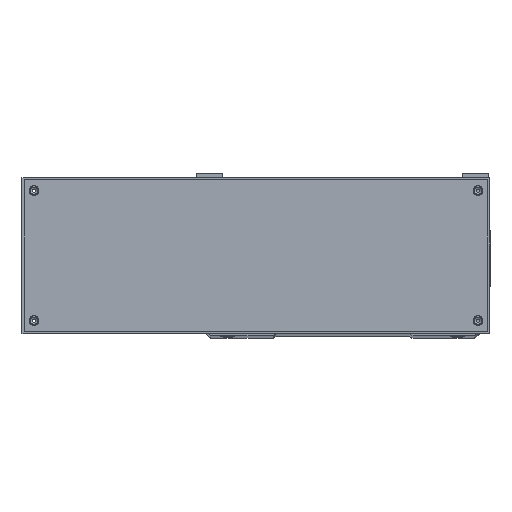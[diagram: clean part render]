
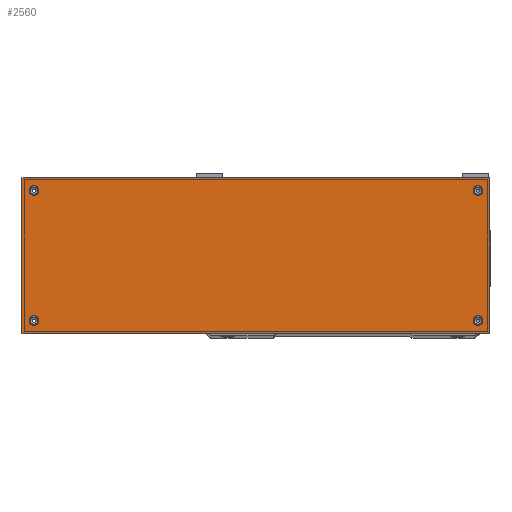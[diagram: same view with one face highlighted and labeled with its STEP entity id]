
A CAD part, top view. The second image highlights one B-rep face of the part: STEP entity #2560.
In plain terms, the highlighted planar face has unit normal (0, 0, 1).
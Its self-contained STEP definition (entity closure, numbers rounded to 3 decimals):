
#856=FACE_BOUND('',#4463,.T.);
#857=FACE_BOUND('',#4464,.T.);
#858=FACE_BOUND('',#4465,.T.);
#859=FACE_BOUND('',#4466,.T.);
#860=FACE_BOUND('',#4467,.T.);
#1878=CIRCLE('',#15849,2.25);
#1880=CIRCLE('',#15852,2.25);
#1882=CIRCLE('',#15855,2.25);
#1884=CIRCLE('',#15858,2.25);
#2560=ADVANCED_FACE('',(#856,#857,#858,#859,#860),#3297,.F.);
#3297=PLANE('',#15864);
#4463=EDGE_LOOP('',(#6827));
#4464=EDGE_LOOP('',(#6828));
#4465=EDGE_LOOP('',(#6829));
#4466=EDGE_LOOP('',(#6830));
#4467=EDGE_LOOP('',(#6831,#6832,#6833,#6834));
#6827=ORIENTED_EDGE('',*,*,#11982,.F.);
#6828=ORIENTED_EDGE('',*,*,#11984,.F.);
#6829=ORIENTED_EDGE('',*,*,#11986,.F.);
#6830=ORIENTED_EDGE('',*,*,#11988,.F.);
#6831=ORIENTED_EDGE('',*,*,#11750,.F.);
#6832=ORIENTED_EDGE('',*,*,#11998,.F.);
#6833=ORIENTED_EDGE('',*,*,#11989,.F.);
#6834=ORIENTED_EDGE('',*,*,#11769,.F.);
#10102=VERTEX_POINT('',#23247);
#10103=VERTEX_POINT('',#23249);
#10114=VERTEX_POINT('',#23282);
#10260=VERTEX_POINT('',#24163);
#10262=VERTEX_POINT('',#24168);
#10264=VERTEX_POINT('',#24173);
#10266=VERTEX_POINT('',#24178);
#10267=VERTEX_POINT('',#24181);
#11750=EDGE_CURVE('',#10102,#10103,#13499,.T.);
#11769=EDGE_CURVE('',#10103,#10114,#13516,.T.);
#11982=EDGE_CURVE('',#10260,#10260,#1878,.T.);
#11984=EDGE_CURVE('',#10262,#10262,#1880,.T.);
#11986=EDGE_CURVE('',#10264,#10264,#1882,.T.);
#11988=EDGE_CURVE('',#10266,#10266,#1884,.T.);
#11989=EDGE_CURVE('',#10114,#10267,#13625,.T.);
#11998=EDGE_CURVE('',#10267,#10102,#13632,.T.);
#13499=LINE('',#23248,#14585);
#13516=LINE('',#23281,#14602);
#13625=LINE('',#24180,#14711);
#13632=LINE('',#24197,#14718);
#14585=VECTOR('',#18186,1.);
#14602=VECTOR('',#18213,1.);
#14711=VECTOR('',#18664,1.);
#14718=VECTOR('',#18677,1.);
#15849=AXIS2_PLACEMENT_3D('',#24162,#18642,#18643);
#15852=AXIS2_PLACEMENT_3D('',#24167,#18648,#18649);
#15855=AXIS2_PLACEMENT_3D('',#24172,#18654,#18655);
#15858=AXIS2_PLACEMENT_3D('',#24177,#18660,#18661);
#15864=AXIS2_PLACEMENT_3D('',#24204,#18683,#18684);
#18186=DIRECTION('',(0.,-1.,0.));
#18213=DIRECTION('',(-1.,0.,0.));
#18642=DIRECTION('',(0.,0.,1.));
#18643=DIRECTION('',(-1.,0.,0.));
#18648=DIRECTION('',(0.,0.,1.));
#18649=DIRECTION('',(1.,0.,0.));
#18654=DIRECTION('',(0.,0.,1.));
#18655=DIRECTION('',(-1.,0.,0.));
#18660=DIRECTION('',(0.,0.,1.));
#18661=DIRECTION('',(1.,0.,0.));
#18664=DIRECTION('',(0.,1.,0.));
#18677=DIRECTION('',(1.,0.,0.));
#18683=DIRECTION('',(0.,0.,-1.));
#18684=DIRECTION('',(1.,0.,0.));
#23247=CARTESIAN_POINT('',(68.,72.,193.));
#23248=CARTESIAN_POINT('',(68.,72.,193.));
#23249=CARTESIAN_POINT('',(68.,0.,193.));
#23281=CARTESIAN_POINT('',(68.,0.,193.));
#23282=CARTESIAN_POINT('',(-148.,0.,193.));
#24162=CARTESIAN_POINT('',(-142.5,6.,193.));
#24163=CARTESIAN_POINT('',(-144.75,6.,193.));
#24167=CARTESIAN_POINT('',(62.5,6.,193.));
#24168=CARTESIAN_POINT('',(64.75,6.,193.));
#24172=CARTESIAN_POINT('',(62.5,66.,193.));
#24173=CARTESIAN_POINT('',(60.25,66.,193.));
#24177=CARTESIAN_POINT('',(-142.5,66.,193.));
#24178=CARTESIAN_POINT('',(-140.25,66.,193.));
#24180=CARTESIAN_POINT('',(-148.,72.,193.));
#24181=CARTESIAN_POINT('',(-148.,72.,193.));
#24197=CARTESIAN_POINT('',(68.,72.,193.));
#24204=CARTESIAN_POINT('',(-40.,36.,193.));
